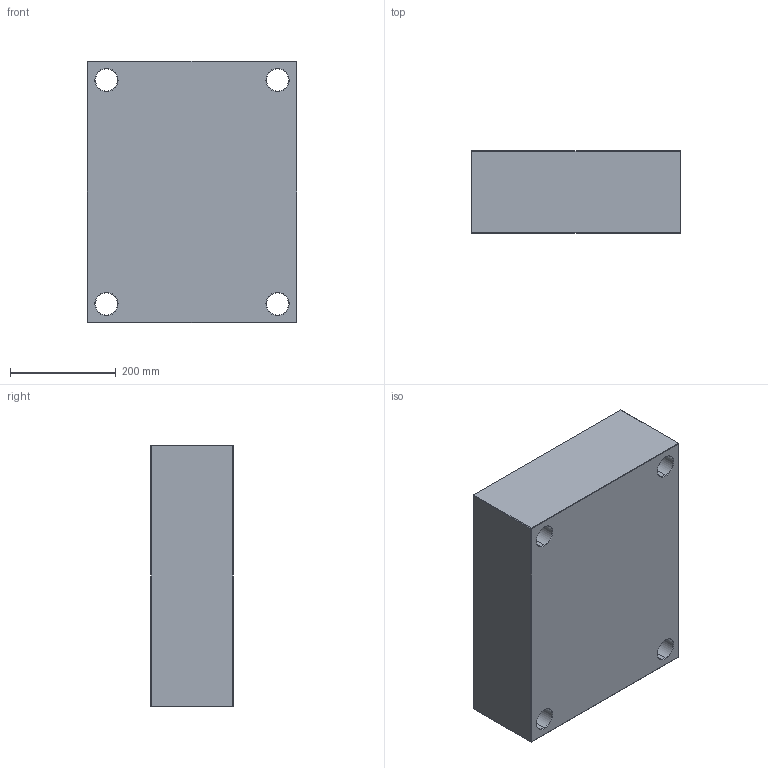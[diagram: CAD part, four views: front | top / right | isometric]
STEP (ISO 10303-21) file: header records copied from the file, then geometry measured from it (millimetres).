
FILE_DESCRIPTION (( 'STEP AP214' ), '1' );
FILE_NAME ('PC-396x496x156.STEP', '2020-04-21T17:25:38', ( 'August' ), ( '' ), 'SwSTEP 2.0', 'SolidWorks 2018', '' );
FILE_SCHEMA (( 'AUTOMOTIVE_DESIGN' ));
Length unit declared in the file: millimetre
Products named in the file (1): PC-396x496x156
Bounding box: 396 x 156 x 496 mm (x, y, z)
Volume: 29742816.8 mm3; surface area: 744665.6 mm2
Topology: 1 solids, 1 shells, 82 faces, 168 edges, 96 vertices
Faces by surface type: plane 34, cone 24, cylinder 24
Entity records: 2170 total; most frequent: DIRECTION 406, CARTESIAN_POINT 347, ORIENTED_EDGE 336, EDGE_CURVE 168, AXIS2_PLACEMENT_3D 155, EDGE_LOOP 98, VERTEX_POINT 96, LINE 96
